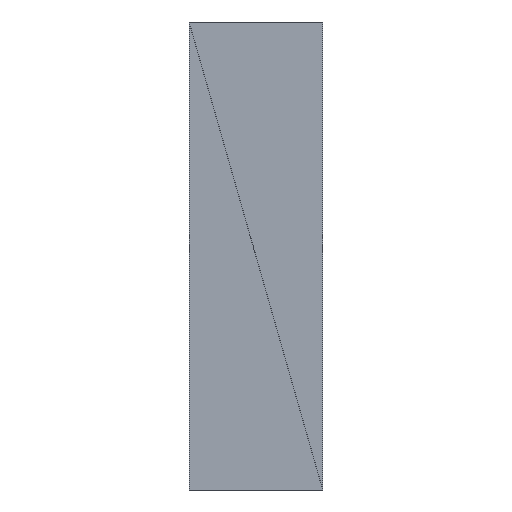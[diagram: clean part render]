
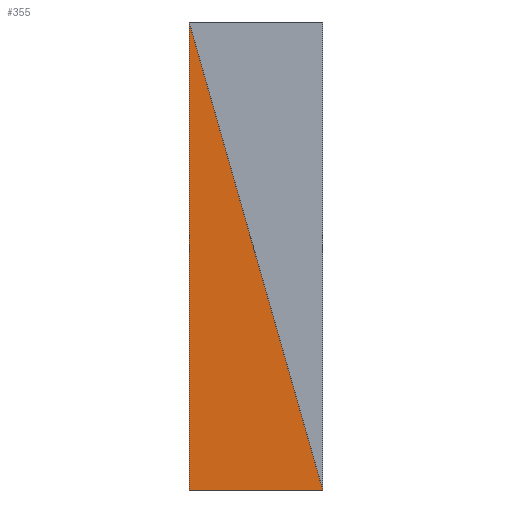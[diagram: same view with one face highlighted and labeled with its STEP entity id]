
A CAD part, left-side view. The second image highlights one B-rep face of the part: STEP entity #355.
In plain terms, the highlighted planar face has unit normal (-1, 0, 0).
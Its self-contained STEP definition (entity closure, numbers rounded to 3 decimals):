
#24 = VERTEX_POINT('',#25);
#25 = CARTESIAN_POINT('',(-775.,-2.,373.));
#32 = PLANE('',#33);
#33 = AXIS2_PLACEMENT_3D('',#34,#35,#36);
#34 = CARTESIAN_POINT('',(-740.971,0.971,373.));
#35 = DIRECTION('',(-0.,-0.,-1.));
#36 = DIRECTION('',(-1.,0.,0.));
#55 = EDGE_CURVE('',#24,#56,#58,.T.);
#56 = VERTEX_POINT('',#57);
#57 = CARTESIAN_POINT('',(-775.,2.,373.));
#58 = SURFACE_CURVE('',#59,(#63,#70),.PCURVE_S1.);
#59 = LINE('',#60,#61);
#60 = CARTESIAN_POINT('',(-775.,-2.,373.));
#61 = VECTOR('',#62,1.);
#62 = DIRECTION('',(0.,1.,0.));
#63 = PCURVE('',#32,#64);
#64 = DEFINITIONAL_REPRESENTATION('',(#65),#69);
#65 = LINE('',#66,#67);
#66 = CARTESIAN_POINT('',(34.029,-2.971));
#67 = VECTOR('',#68,1.);
#68 = DIRECTION('',(0.,1.));
#69 = ( GEOMETRIC_REPRESENTATION_CONTEXT(2) 
PARAMETRIC_REPRESENTATION_CONTEXT() REPRESENTATION_CONTEXT('2D SPACE',''
  ) );
#70 = PCURVE('',#71,#76);
#71 = PLANE('',#72);
#72 = AXIS2_PLACEMENT_3D('',#73,#74,#75);
#73 = CARTESIAN_POINT('',(-775.,0.86,379.14));
#74 = DIRECTION('',(-1.,-0.,-0.));
#75 = DIRECTION('',(0.,0.,-1.));
#76 = DEFINITIONAL_REPRESENTATION('',(#77),#80);
#77 = B_SPLINE_CURVE_WITH_KNOTS('',1,(#78,#79),.UNSPECIFIED.,.F.,.F.,(2,
    2),(0.,4.),.PIECEWISE_BEZIER_KNOTS.);
#78 = CARTESIAN_POINT('',(6.14,2.86));
#79 = CARTESIAN_POINT('',(6.14,-1.14));
#80 = ( GEOMETRIC_REPRESENTATION_CONTEXT(2) 
PARAMETRIC_REPRESENTATION_CONTEXT() REPRESENTATION_CONTEXT('2D SPACE',''
  ) );
#96 = PLANE('',#97);
#97 = AXIS2_PLACEMENT_3D('',#98,#99,#100);
#98 = CARTESIAN_POINT('',(-743.153,2.,376.847));
#99 = DIRECTION('',(0.,1.,0.));
#100 = DIRECTION('',(0.,-0.,1.));
#258 = PLANE('',#259);
#259 = AXIS2_PLACEMENT_3D('',#260,#261,#262);
#260 = CARTESIAN_POINT('',(-775.,-0.86,380.86));
#261 = DIRECTION('',(-1.,-0.,-0.));
#262 = DIRECTION('',(0.,0.,-1.));
#355 = ADVANCED_FACE('',(#356),#71,.T.);
#356 = FACE_BOUND('',#357,.T.);
#357 = EDGE_LOOP('',(#358,#380,#381));
#358 = ORIENTED_EDGE('',*,*,#359,.T.);
#359 = EDGE_CURVE('',#360,#56,#362,.T.);
#360 = VERTEX_POINT('',#361);
#361 = CARTESIAN_POINT('',(-775.,2.,387.));
#362 = SURFACE_CURVE('',#363,(#367,#374),.PCURVE_S1.);
#363 = LINE('',#364,#365);
#364 = CARTESIAN_POINT('',(-775.,2.,387.));
#365 = VECTOR('',#366,1.);
#366 = DIRECTION('',(0.,0.,-1.));
#367 = PCURVE('',#71,#368);
#368 = DEFINITIONAL_REPRESENTATION('',(#369),#373);
#369 = LINE('',#370,#371);
#370 = CARTESIAN_POINT('',(-7.86,-1.14));
#371 = VECTOR('',#372,1.);
#372 = DIRECTION('',(1.,0.));
#373 = ( GEOMETRIC_REPRESENTATION_CONTEXT(2) 
PARAMETRIC_REPRESENTATION_CONTEXT() REPRESENTATION_CONTEXT('2D SPACE',''
  ) );
#374 = PCURVE('',#96,#375);
#375 = DEFINITIONAL_REPRESENTATION('',(#376),#379);
#376 = B_SPLINE_CURVE_WITH_KNOTS('',1,(#377,#378),.UNSPECIFIED.,.F.,.F.,
  (2,2),(0.,14.),.PIECEWISE_BEZIER_KNOTS.);
#377 = CARTESIAN_POINT('',(10.153,-31.847));
#378 = CARTESIAN_POINT('',(-3.847,-31.847));
#379 = ( GEOMETRIC_REPRESENTATION_CONTEXT(2) 
PARAMETRIC_REPRESENTATION_CONTEXT() REPRESENTATION_CONTEXT('2D SPACE',''
  ) );
#380 = ORIENTED_EDGE('',*,*,#55,.F.);
#381 = ORIENTED_EDGE('',*,*,#382,.T.);
#382 = EDGE_CURVE('',#24,#360,#383,.T.);
#383 = SURFACE_CURVE('',#384,(#388,#395),.PCURVE_S1.);
#384 = LINE('',#385,#386);
#385 = CARTESIAN_POINT('',(-775.,-2.,373.));
#386 = VECTOR('',#387,1.);
#387 = DIRECTION('',(0.,0.275,0.962));
#388 = PCURVE('',#71,#389);
#389 = DEFINITIONAL_REPRESENTATION('',(#390),#394);
#390 = LINE('',#391,#392);
#391 = CARTESIAN_POINT('',(6.14,2.86));
#392 = VECTOR('',#393,1.);
#393 = DIRECTION('',(-0.962,-0.275));
#394 = ( GEOMETRIC_REPRESENTATION_CONTEXT(2) 
PARAMETRIC_REPRESENTATION_CONTEXT() REPRESENTATION_CONTEXT('2D SPACE',''
  ) );
#395 = PCURVE('',#258,#396);
#396 = DEFINITIONAL_REPRESENTATION('',(#397),#400);
#397 = B_SPLINE_CURVE_WITH_KNOTS('',1,(#398,#399),.UNSPECIFIED.,.F.,.F.,
  (2,2),(0.,14.56),.PIECEWISE_BEZIER_KNOTS.);
#398 = CARTESIAN_POINT('',(7.86,1.14));
#399 = CARTESIAN_POINT('',(-6.14,-2.86));
#400 = ( GEOMETRIC_REPRESENTATION_CONTEXT(2) 
PARAMETRIC_REPRESENTATION_CONTEXT() REPRESENTATION_CONTEXT('2D SPACE',''
  ) );
